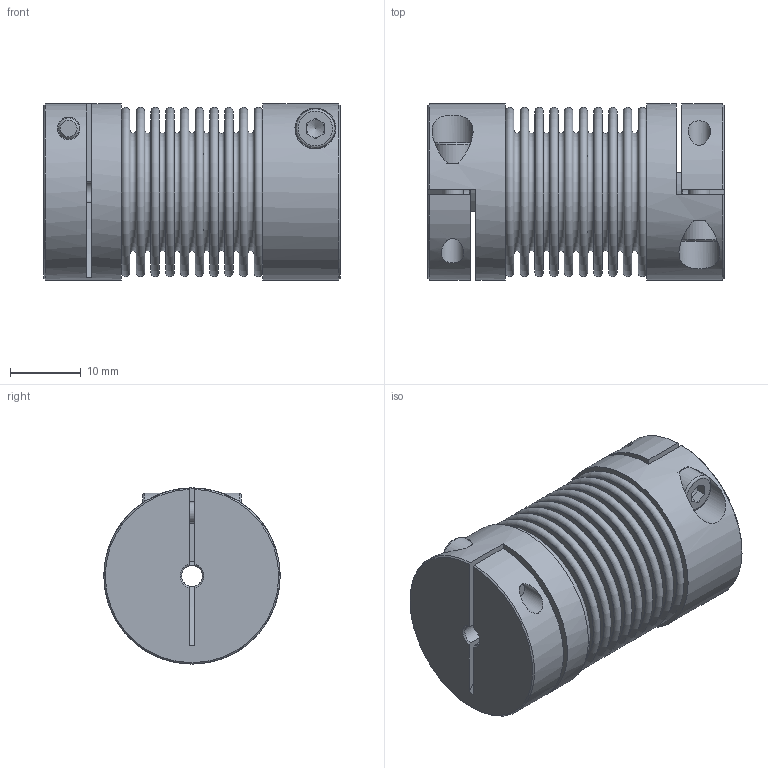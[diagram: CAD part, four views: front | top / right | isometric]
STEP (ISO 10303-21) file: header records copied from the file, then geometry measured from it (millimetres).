
FILE_DESCRIPTION(/* description */ ('STEP AP203'),/* implementation_level */ '2;1');
FILE_NAME(/* name */ 'KB2-20-42-3-3',/* time_stamp */ '2022-09-13T13:42:04+02:00',/* author */ ('License CC BY-ND 4.0'),/* organization */ ('CADENAS'),/* preprocessor_version */ 'ST-DEVELOPER v18.102',/* originating_system */ 'PARTsolutions',/* authorisation */ ' ');
FILE_SCHEMA (('CONFIG_CONTROL_DESIGN'));
Length unit declared in the file: millimetre
Products named in the file (1): KB2-20-42-3-3
Bounding box: 42 x 25 x 25 mm (x, y, z)
Volume: 10473.9 mm3; surface area: 15898 mm2
Topology: 1 solids, 1 shells, 161 faces, 332 edges, 217 vertices
Faces by surface type: plane 88, torus 40, cylinder 22, cone 11
Full cylindrical faces by diameter (mm): 3 x4, 3.2 x4, 5.5 x2, 17.5 x2, 25 x2
Entity records: 3976 total; most frequent: CARTESIAN_POINT 736, DIRECTION 708, ORIENTED_EDGE 510, AXIS2_PLACEMENT_3D 311, FACE_BOUND 278, EDGE_LOOP 276, EDGE_CURVE 255, VERTEX_POINT 203
